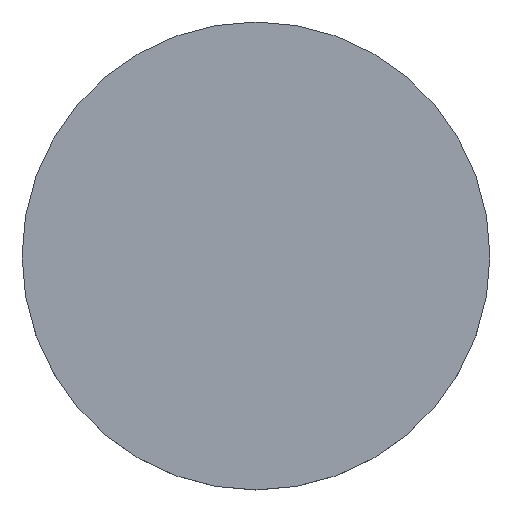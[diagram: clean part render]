
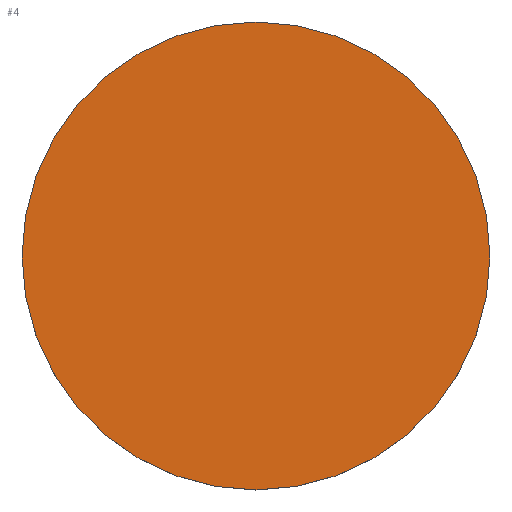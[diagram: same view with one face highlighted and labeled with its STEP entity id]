
A CAD part, top view. The second image highlights one B-rep face of the part: STEP entity #4.
In plain terms, the highlighted planar face has unit normal (0, 0, 1).
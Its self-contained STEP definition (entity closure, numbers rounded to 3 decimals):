
#4 = ADVANCED_FACE ( 'NONE', ( #21 ), #69, .T. ) ;
#10 = ORIENTED_EDGE ( 'NONE', *, *, #139, .T. ) ;
#13 = EDGE_LOOP ( 'NONE', ( #22, #10 ) ) ;
#17 = VERTEX_POINT ( 'NONE', #78 ) ;
#21 = FACE_OUTER_BOUND ( 'NONE', #13, .T. ) ;
#22 = ORIENTED_EDGE ( 'NONE', *, *, #134, .T. ) ;
#26 = VERTEX_POINT ( 'NONE', #71 ) ;
#35 = CIRCLE ( 'NONE', #59, 13. ) ;
#42 = CIRCLE ( 'NONE', #66, 13. ) ;
#59 = AXIS2_PLACEMENT_3D ( 'NONE', #89, #90, #80 ) ;
#66 = AXIS2_PLACEMENT_3D ( 'NONE', #92, #111, #99 ) ;
#67 = CARTESIAN_POINT ( 'NONE',  ( 0., 0., 2. ) ) ;
#68 = DIRECTION ( 'NONE',  ( 0., 0., 1. ) ) ;
#69 = PLANE ( 'NONE',  #138 ) ;
#70 = DIRECTION ( 'NONE',  ( 1., 0., 0. ) ) ;
#71 = CARTESIAN_POINT ( 'NONE',  ( 13., 0., 2. ) ) ;
#78 = CARTESIAN_POINT ( 'NONE',  ( -13., 0., 2. ) ) ;
#80 = DIRECTION ( 'NONE',  ( 1., 0., 0. ) ) ;
#89 = CARTESIAN_POINT ( 'NONE',  ( 0., 0., 2. ) ) ;
#90 = DIRECTION ( 'NONE',  ( 0., 0., 1. ) ) ;
#92 = CARTESIAN_POINT ( 'NONE',  ( 0., 0., 2. ) ) ;
#99 = DIRECTION ( 'NONE',  ( 1., 0., 0. ) ) ;
#111 = DIRECTION ( 'NONE',  ( 0., 0., 1. ) ) ;
#134 = EDGE_CURVE ( 'NONE', #17, #26, #35, .T. ) ;
#138 = AXIS2_PLACEMENT_3D ( 'NONE', #67, #68, #70 ) ;
#139 = EDGE_CURVE ( 'NONE', #26, #17, #42, .T. ) ;
